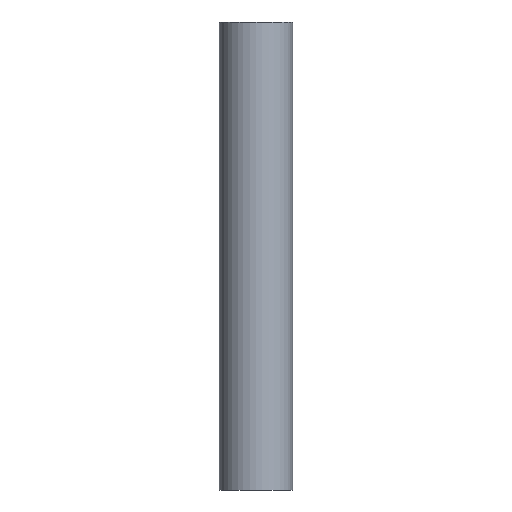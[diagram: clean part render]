
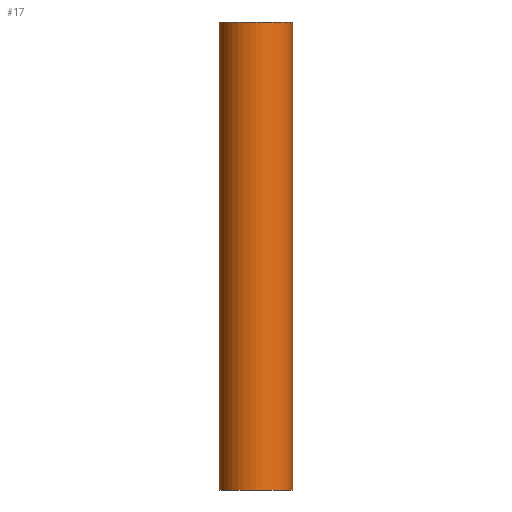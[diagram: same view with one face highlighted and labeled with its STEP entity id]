
A CAD part, front view. The second image highlights one B-rep face of the part: STEP entity #17.
In plain terms, the highlighted cylindrical face has radius 15 mm (diameter 30 mm), a full revolution.
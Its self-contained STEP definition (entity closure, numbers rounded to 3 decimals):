
#17 = ADVANCED_FACE('',(#18),#45,.T.);
#18 = FACE_BOUND('',#19,.T.);
#19 = EDGE_LOOP('',(#20,#29,#37,#44));
#20 = ORIENTED_EDGE('',*,*,#21,.F.);
#21 = EDGE_CURVE('',#22,#22,#24,.T.);
#22 = VERTEX_POINT('',#23);
#23 = CARTESIAN_POINT('',(30.,15.,192.));
#24 = CIRCLE('',#25,15.);
#25 = AXIS2_PLACEMENT_3D('',#26,#27,#28);
#26 = CARTESIAN_POINT('',(15.,15.,192.));
#27 = DIRECTION('',(0.,0.,1.));
#28 = DIRECTION('',(1.,0.,0.));
#29 = ORIENTED_EDGE('',*,*,#30,.F.);
#30 = EDGE_CURVE('',#31,#22,#33,.T.);
#31 = VERTEX_POINT('',#32);
#32 = CARTESIAN_POINT('',(30.,15.,0.));
#33 = LINE('',#34,#35);
#34 = CARTESIAN_POINT('',(30.,15.,0.));
#35 = VECTOR('',#36,1.);
#36 = DIRECTION('',(0.,0.,1.));
#37 = ORIENTED_EDGE('',*,*,#38,.T.);
#38 = EDGE_CURVE('',#31,#31,#39,.T.);
#39 = CIRCLE('',#40,15.);
#40 = AXIS2_PLACEMENT_3D('',#41,#42,#43);
#41 = CARTESIAN_POINT('',(15.,15.,0.));
#42 = DIRECTION('',(0.,0.,1.));
#43 = DIRECTION('',(1.,0.,0.));
#44 = ORIENTED_EDGE('',*,*,#30,.T.);
#45 = CYLINDRICAL_SURFACE('',#46,15.);
#46 = AXIS2_PLACEMENT_3D('',#47,#48,#49);
#47 = CARTESIAN_POINT('',(15.,15.,0.));
#48 = DIRECTION('',(0.,0.,1.));
#49 = DIRECTION('',(1.,0.,0.));
